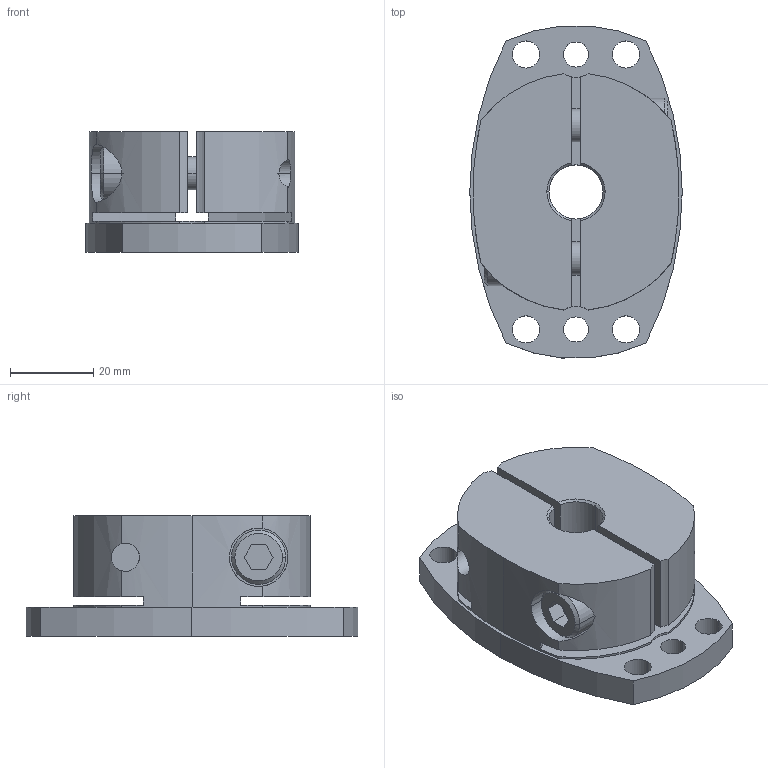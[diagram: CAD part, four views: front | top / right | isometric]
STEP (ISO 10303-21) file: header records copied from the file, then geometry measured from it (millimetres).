
FILE_DESCRIPTION((''),'2;1');
FILE_NAME('SHDB-80B-13.stp','2026-01-28T08:22:04',(''),(''),'AutoCAD STEP 2000i','AutoCAD 2000i',', , ');
FILE_SCHEMA(('CONFIG_CONTROL_DESIGN'));
Length unit declared in the file: millimetre
Products named in the file (2): SHDB-80B-12; 忣兜1
Assembly tree (1 placements, depth 2):
  SHDB-80B-12
    忣兜1
Bounding box: 51 x 79.7 x 29 mm (x, y, z)
Volume: 65045.5 mm3; surface area: 20075.4 mm2
Topology: 1 solids, 1 shells, 102 faces, 280 edges, 184 vertices
Faces by surface type: cylinder 58, plane 34, cone 10
Entity records: 3707 total; most frequent: CARTESIAN_POINT 880, DIRECTION 602, ORIENTED_EDGE 560, EDGE_CURVE 280, AXIS2_PLACEMENT_3D 238, VERTEX_POINT 184, CIRCLE 134, VECTOR 126
